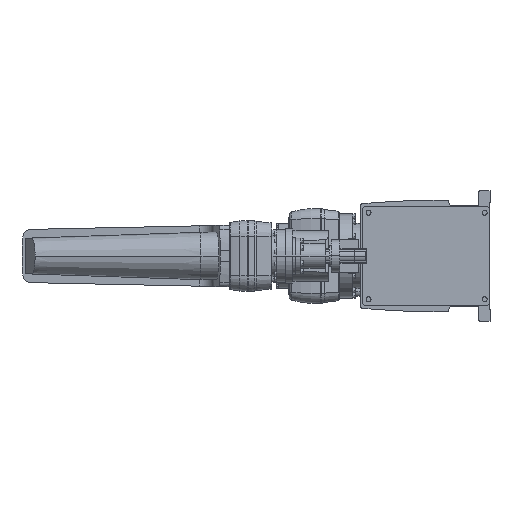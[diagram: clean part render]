
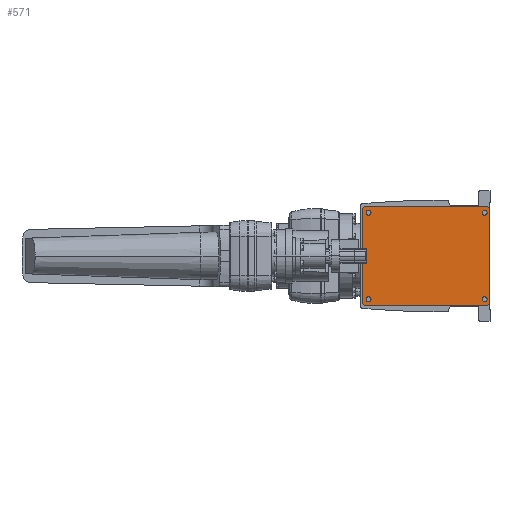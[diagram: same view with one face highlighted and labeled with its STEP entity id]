
A CAD part, left-side view. The second image highlights one B-rep face of the part: STEP entity #571.
In plain terms, the highlighted planar face has unit normal (-1, 0, 0).
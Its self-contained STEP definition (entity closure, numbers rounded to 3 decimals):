
#571 = ADVANCED_FACE( '', ( #2121, #2122, #2123, #2124, #2125 ), #2126, .F. );
#2121 = FACE_BOUND( '', #4603, .T. );
#2122 = FACE_BOUND( '', #4604, .T. );
#2123 = FACE_BOUND( '', #4605, .T. );
#2124 = FACE_BOUND( '', #4606, .T. );
#2125 = FACE_OUTER_BOUND( '', #4607, .T. );
#2126 = PLANE( '', #4608 );
#4603 = EDGE_LOOP( '', ( #9083, #9084 ) );
#4604 = EDGE_LOOP( '', ( #9085, #9086 ) );
#4605 = EDGE_LOOP( '', ( #9087, #9088 ) );
#4606 = EDGE_LOOP( '', ( #9089, #9090 ) );
#4607 = EDGE_LOOP( '', ( #9091, #9092, #9093, #9094, #9095, #9096, #9097, #9098 ) );
#4608 = AXIS2_PLACEMENT_3D( '', #9099, #9100, #9101 );
#9083 = ORIENTED_EDGE( '', *, *, #16095, .T. );
#9084 = ORIENTED_EDGE( '', *, *, #15295, .T. );
#9085 = ORIENTED_EDGE( '', *, *, #16098, .T. );
#9086 = ORIENTED_EDGE( '', *, *, #15287, .T. );
#9087 = ORIENTED_EDGE( '', *, *, #16101, .T. );
#9088 = ORIENTED_EDGE( '', *, *, #15279, .T. );
#9089 = ORIENTED_EDGE( '', *, *, #16104, .T. );
#9090 = ORIENTED_EDGE( '', *, *, #15271, .T. );
#9091 = ORIENTED_EDGE( '', *, *, #16142, .F. );
#9092 = ORIENTED_EDGE( '', *, *, #16108, .F. );
#9093 = ORIENTED_EDGE( '', *, *, #16115, .F. );
#9094 = ORIENTED_EDGE( '', *, *, #16120, .F. );
#9095 = ORIENTED_EDGE( '', *, *, #16125, .F. );
#9096 = ORIENTED_EDGE( '', *, *, #16128, .F. );
#9097 = ORIENTED_EDGE( '', *, *, #16143, .F. );
#9098 = ORIENTED_EDGE( '', *, *, #16139, .F. );
#9099 = CARTESIAN_POINT( '', ( -76.6, 0., 0. ) );
#9100 = DIRECTION( '', ( 1., 0., 0. ) );
#9101 = DIRECTION( '', ( 0., 0., -1. ) );
#15271 = EDGE_CURVE( '', #18013, #18017, #18019, .T. );
#15279 = EDGE_CURVE( '', #18029, #18033, #18035, .T. );
#15287 = EDGE_CURVE( '', #18045, #18049, #18051, .T. );
#15295 = EDGE_CURVE( '', #18061, #18065, #18067, .T. );
#16095 = EDGE_CURVE( '', #18065, #18061, #19384, .T. );
#16098 = EDGE_CURVE( '', #18049, #18045, #19387, .T. );
#16101 = EDGE_CURVE( '', #18033, #18029, #19390, .T. );
#16104 = EDGE_CURVE( '', #18017, #18013, #19393, .T. );
#16108 = EDGE_CURVE( '', #19398, #19400, #19401, .T. );
#16115 = EDGE_CURVE( '', #19410, #19398, #19412, .T. );
#16120 = EDGE_CURVE( '', #19418, #19410, #19420, .T. );
#16125 = EDGE_CURVE( '', #19426, #19418, #19428, .T. );
#16128 = EDGE_CURVE( '', #19431, #19426, #19433, .T. );
#16139 = EDGE_CURVE( '', #19449, #19451, #19452, .T. );
#16142 = EDGE_CURVE( '', #19400, #19449, #19455, .T. );
#16143 = EDGE_CURVE( '', #19451, #19431, #19456, .T. );
#18013 = VERTEX_POINT( '', #22508 );
#18017 = VERTEX_POINT( '', #22513 );
#18019 = CIRCLE( '', #22516, 4.15 );
#18029 = VERTEX_POINT( '', #22528 );
#18033 = VERTEX_POINT( '', #22533 );
#18035 = CIRCLE( '', #22536, 4.15 );
#18045 = VERTEX_POINT( '', #22548 );
#18049 = VERTEX_POINT( '', #22553 );
#18051 = CIRCLE( '', #22556, 4.15 );
#18061 = VERTEX_POINT( '', #22568 );
#18065 = VERTEX_POINT( '', #22573 );
#18067 = CIRCLE( '', #22576, 4.15 );
#19384 = CIRCLE( '', #25135, 4.15 );
#19387 = CIRCLE( '', #25138, 4.15 );
#19390 = CIRCLE( '', #25141, 4.15 );
#19393 = CIRCLE( '', #25144, 4.15 );
#19398 = VERTEX_POINT( '', #25149 );
#19400 = VERTEX_POINT( '', #25152 );
#19401 = CIRCLE( '', #25153, 4.5 );
#19410 = VERTEX_POINT( '', #25166 );
#19412 = LINE( '', #25169, #25170 );
#19418 = VERTEX_POINT( '', #25178 );
#19420 = CIRCLE( '', #25181, 4.5 );
#19426 = VERTEX_POINT( '', #25189 );
#19428 = LINE( '', #25192, #25193 );
#19431 = VERTEX_POINT( '', #25196 );
#19433 = CIRCLE( '', #25199, 4.5 );
#19449 = VERTEX_POINT( '', #25221 );
#19451 = VERTEX_POINT( '', #25224 );
#19452 = CIRCLE( '', #25225, 4.5 );
#19455 = LINE( '', #25230, #25231 );
#19456 = LINE( '', #25232, #25233 );
#22508 = CARTESIAN_POINT( '', ( -76.6, 205., 68.85 ) );
#22513 = CARTESIAN_POINT( '', ( -76.6, 205., 77.15 ) );
#22516 = AXIS2_PLACEMENT_3D( '', #30512, #30513, #30514 );
#22528 = CARTESIAN_POINT( '', ( -76.6, 205., -77.15 ) );
#22533 = CARTESIAN_POINT( '', ( -76.6, 205., -68.85 ) );
#22536 = AXIS2_PLACEMENT_3D( '', #30528, #30529, #30530 );
#22548 = CARTESIAN_POINT( '', ( -76.6, 9., 68.85 ) );
#22553 = CARTESIAN_POINT( '', ( -76.6, 9., 77.15 ) );
#22556 = AXIS2_PLACEMENT_3D( '', #30544, #30545, #30546 );
#22568 = CARTESIAN_POINT( '', ( -76.6, 9., -77.15 ) );
#22573 = CARTESIAN_POINT( '', ( -76.6, 9., -68.85 ) );
#22576 = AXIS2_PLACEMENT_3D( '', #30560, #30561, #30562 );
#25135 = AXIS2_PLACEMENT_3D( '', #31948, #31949, #31950 );
#25138 = AXIS2_PLACEMENT_3D( '', #31957, #31958, #31959 );
#25141 = AXIS2_PLACEMENT_3D( '', #31966, #31967, #31968 );
#25144 = AXIS2_PLACEMENT_3D( '', #31975, #31976, #31977 );
#25149 = CARTESIAN_POINT( '', ( -76.6, 215., 78.5 ) );
#25152 = CARTESIAN_POINT( '', ( -76.6, 210.5, 83. ) );
#25153 = AXIS2_PLACEMENT_3D( '', #31985, #31986, #31987 );
#25166 = CARTESIAN_POINT( '', ( -76.6, 215., -78.5 ) );
#25169 = CARTESIAN_POINT( '', ( -76.6, 215., -78.5 ) );
#25170 = VECTOR( '', #31996, 1. );
#25178 = CARTESIAN_POINT( '', ( -76.6, 210.5, -83. ) );
#25181 = AXIS2_PLACEMENT_3D( '', #32003, #32004, #32005 );
#25189 = CARTESIAN_POINT( '', ( -76.6, 5.5, -83. ) );
#25192 = CARTESIAN_POINT( '', ( -76.6, 5.5, -83. ) );
#25193 = VECTOR( '', #32012, 1. );
#25196 = CARTESIAN_POINT( '', ( -76.6, 1., -78.5 ) );
#25199 = AXIS2_PLACEMENT_3D( '', #32017, #32018, #32019 );
#25221 = CARTESIAN_POINT( '', ( -76.6, 5.5, 83. ) );
#25224 = CARTESIAN_POINT( '', ( -76.6, 1., 78.5 ) );
#25225 = AXIS2_PLACEMENT_3D( '', #32036, #32037, #32038 );
#25230 = CARTESIAN_POINT( '', ( -76.6, 210.5, 83. ) );
#25231 = VECTOR( '', #32041, 1. );
#25232 = CARTESIAN_POINT( '', ( -76.6, 1., 78.5 ) );
#25233 = VECTOR( '', #32042, 1. );
#30512 = CARTESIAN_POINT( '', ( -76.6, 205., 73. ) );
#30513 = DIRECTION( '', ( 1., 0., 0. ) );
#30514 = DIRECTION( '', ( 0., 0., -1. ) );
#30528 = CARTESIAN_POINT( '', ( -76.6, 205., -73. ) );
#30529 = DIRECTION( '', ( 1., 0., 0. ) );
#30530 = DIRECTION( '', ( 0., 0., -1. ) );
#30544 = CARTESIAN_POINT( '', ( -76.6, 9., 73. ) );
#30545 = DIRECTION( '', ( 1., 0., 0. ) );
#30546 = DIRECTION( '', ( 0., 0., -1. ) );
#30560 = CARTESIAN_POINT( '', ( -76.6, 9., -73. ) );
#30561 = DIRECTION( '', ( 1., 0., 0. ) );
#30562 = DIRECTION( '', ( 0., 0., -1. ) );
#31948 = CARTESIAN_POINT( '', ( -76.6, 9., -73. ) );
#31949 = DIRECTION( '', ( 1., 0., 0. ) );
#31950 = DIRECTION( '', ( 0., 0., -1. ) );
#31957 = CARTESIAN_POINT( '', ( -76.6, 9., 73. ) );
#31958 = DIRECTION( '', ( 1., 0., 0. ) );
#31959 = DIRECTION( '', ( 0., 0., -1. ) );
#31966 = CARTESIAN_POINT( '', ( -76.6, 205., -73. ) );
#31967 = DIRECTION( '', ( 1., 0., 0. ) );
#31968 = DIRECTION( '', ( 0., 0., -1. ) );
#31975 = CARTESIAN_POINT( '', ( -76.6, 205., 73. ) );
#31976 = DIRECTION( '', ( 1., 0., 0. ) );
#31977 = DIRECTION( '', ( 0., 0., -1. ) );
#31985 = CARTESIAN_POINT( '', ( -76.6, 210.5, 78.5 ) );
#31986 = DIRECTION( '', ( 1., 0., 0. ) );
#31987 = DIRECTION( '', ( 0., 1., 0. ) );
#31996 = DIRECTION( '', ( 0., 0., 1. ) );
#32003 = CARTESIAN_POINT( '', ( -76.6, 210.5, -78.5 ) );
#32004 = DIRECTION( '', ( 1., 0., 0. ) );
#32005 = DIRECTION( '', ( 0., 0., -1. ) );
#32012 = DIRECTION( '', ( 0., 1., 0. ) );
#32017 = CARTESIAN_POINT( '', ( -76.6, 5.5, -78.5 ) );
#32018 = DIRECTION( '', ( 1., 0., 0. ) );
#32019 = DIRECTION( '', ( 0., -1., 0. ) );
#32036 = CARTESIAN_POINT( '', ( -76.6, 5.5, 78.5 ) );
#32037 = DIRECTION( '', ( 1., 0., 0. ) );
#32038 = DIRECTION( '', ( 0., 0., 1. ) );
#32041 = DIRECTION( '', ( 0., -1., 0. ) );
#32042 = DIRECTION( '', ( 0., 0., -1. ) );
